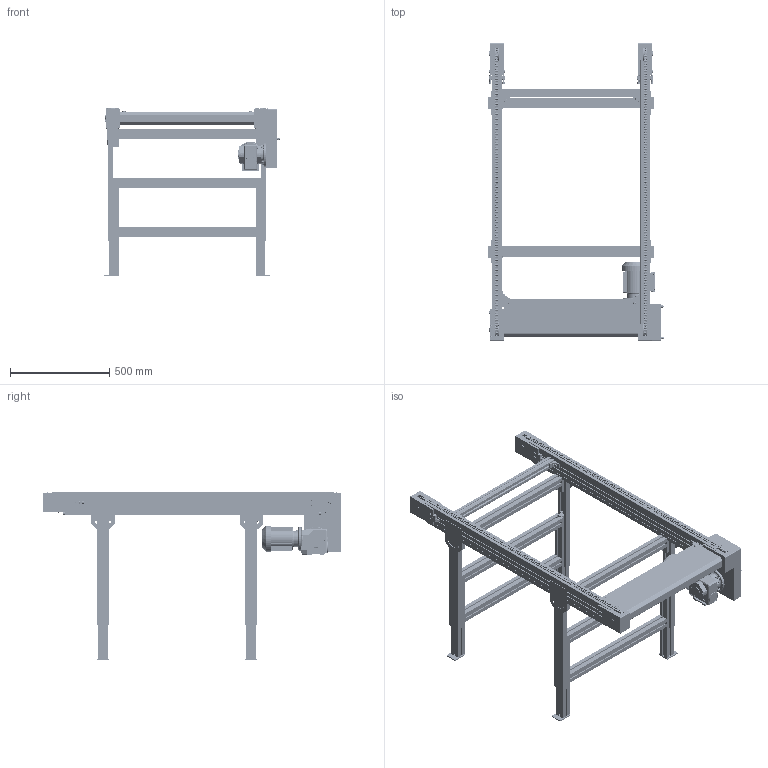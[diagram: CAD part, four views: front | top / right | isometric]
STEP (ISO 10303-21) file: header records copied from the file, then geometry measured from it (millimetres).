
FILE_DESCRIPTION(/* description */ (''),/* implementation_level */ '2;1');
FILE_NAME(/* name */ 'C:\Marketing\01_Versamove-SPU_STEP-Dateien-Homepage\Versamove plus\STEP-Dateien\Kettenförderer_KTF-P-2010_B800_L1500.stp',/* time_stamp */ '2016-12-22T08:12:02+01:00',/* author */ ('herbert.engels'),/* organization */ (''),/* preprocessor_version */ 'ST-DEVELOPER v15.6',/* originating_system */ 'Autodesk Inventor 2015',/* authorisation */ '');
FILE_SCHEMA (('CONFIG_CONTROL_DESIGN'));
Products named in the file (1): Kettenförderer_KTF-P-2010_B800_L1500
Bounding box: 890.6 x 1503 x 852.54 mm (x, y, z)
Volume: 36487602 mm3; surface area: 6778147.4 mm2
Topology: 13 solids, 13 shells, 7103 faces, 18916 edges, 12292 vertices
Faces by surface type: plane 3939, cylinder 2750, torus 214, cone 169, bspline 23, sphere 8
Full cylindrical faces by diameter (mm): 2 x2, 4.45 x438, 5.459 x4, 6 x21, 6.6 x4, 7 x8, 8 x39, 8.51 x224, 8.8 x19, 9.5 x2, 11.8 x440, 12 x6, 13 x12, 14 x3, 16.2 x4, 19 x3, 20 x6, 24 x1, 25 x1, 25.5 x4, 35 x12, 37 x1, 38 x1, 40 x4, 43 x1, 52 x1, 56 x2, 62 x2, 73 x8, 80 x3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
Entity records: 222511 total; most frequent: CARTESIAN_POINT 41543, DIRECTION 36775, ORIENTED_EDGE 34442, EDGE_CURVE 17000, AXIS2_PLACEMENT_3D 13796, VERTEX_POINT 11757, EDGE_LOOP 9968, LINE 9183
